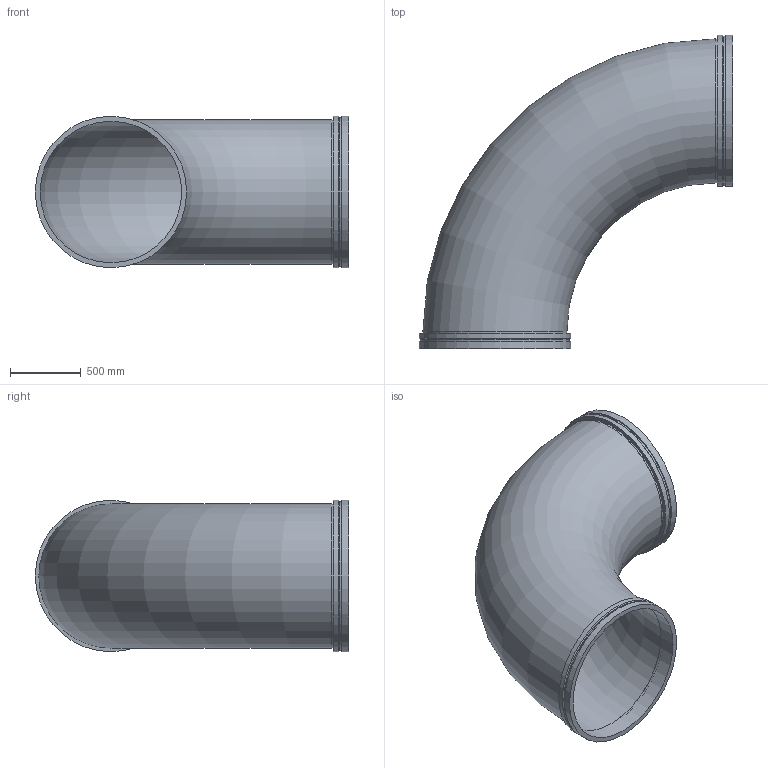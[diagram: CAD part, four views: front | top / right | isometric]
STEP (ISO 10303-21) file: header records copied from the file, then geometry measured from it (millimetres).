
FILE_DESCRIPTION(/* description */ ('VIC 90 DEG ELBOW No W100 VR','CAx-IF Rec.Pracs.---Representation and Presentation of Product Manufacturing Information (PMI)---4.0---2014-10-13'),/* implementation_level */ '2;1');
FILE_NAME(/* name */ 'C:\Users\kkamble\AppData\Roaming\Autodesk\ApplicationPlugins\Back Up\Victaulic_Vic-Ring_Elbow 90 Deg LR_No W100 VR (AGR)\Victaulic_Vic-Ring_Elbow 90 Deg LR_No W100 VR (AGR)_40 (1000).stp',/* time_stamp */ '2020-09-10T11:44:24+05:00',/* author */ ('cps_temp'),/* organization */ ('Victaulic'),/* preprocessor_version */ 'ST-DEVELOPER v17.2',/* originating_system */ 'Autodesk Inventor 2019',/* authorisation */ '');
FILE_SCHEMA (('AP242_MANAGED_MODEL_BASED_3D_ENGINEERING_MIM_LF { 1 0 10303 442 1 1 4 }'));
Length unit declared in the file: inch
Products named in the file (1): W100 VR-40.0
Bounding box: 2209.8 x 2209.8 x 1066.8 mm (x, y, z)
Volume: 97878452.9 mm3; surface area: 17482776.3 mm2
Topology: 1 solids, 1 shells, 20 faces, 51 edges, 37 vertices
Faces by surface type: cylinder 10, plane 6, cone 2, torus 2
Full cylindrical faces by diameter (mm): 996.95 x2, 1016 x2, 1050.925 x2, 1066.8 x4
Entity records: 802 total; most frequent: DIRECTION 158, CARTESIAN_POINT 126, ORIENTED_EDGE 102, AXIS2_PLACEMENT_3D 73, EDGE_CURVE 51, CIRCLE 39, VERTEX_POINT 37, EDGE_LOOP 26
